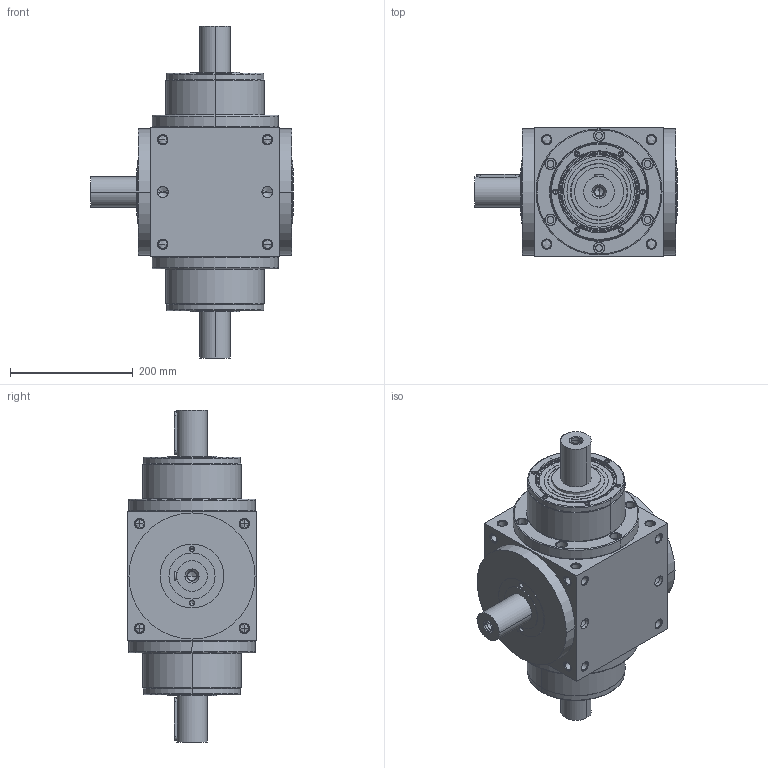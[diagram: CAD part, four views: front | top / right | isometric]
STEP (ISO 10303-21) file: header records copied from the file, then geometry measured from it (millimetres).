
FILE_DESCRIPTION((''),'2;1');
FILE_NAME('AT210LM-1_ASM','2010-02-09T',('d00080'),(''),'PRO/ENGINEER BY PARAMETRIC TECHNOLOGY CORPORATION, 2008170','PRO/ENGINEER BY PARAMETRIC TECHNOLOGY CORPORATION, 2008170','');
FILE_SCHEMA(('CONFIG_CONTROL_DESIGN'));
Length unit declared in the file: millimetre
Products named in the file (4): ATLM-HOUSING-1-8; P1801800001; 22400071008; AT210LM-1_ASM
Assembly tree (5 placements, depth 2):
  AT210LM-1_ASM
    ATLM-HOUSING-1-8
    P1801800001  x2
    22400071008  x2
Bounding box: 329 x 210 x 540 mm (x, y, z)
Volume: 13593734.9 mm3; surface area: 789958.3 mm2
Topology: 7 solids, 46 shells, 845 faces, 2021 edges, 1193 vertices
Faces by surface type: cylinder 370, cone 296, plane 109, torus 70
Entity records: 18440 total; most frequent: CARTESIAN_POINT 3919, DIRECTION 3261, ORIENTED_EDGE 2746, EDGE_CURVE 1439, AXIS2_PLACEMENT_3D 1366, VERTEX_POINT 900, CIRCLE 738, EDGE_LOOP 731
